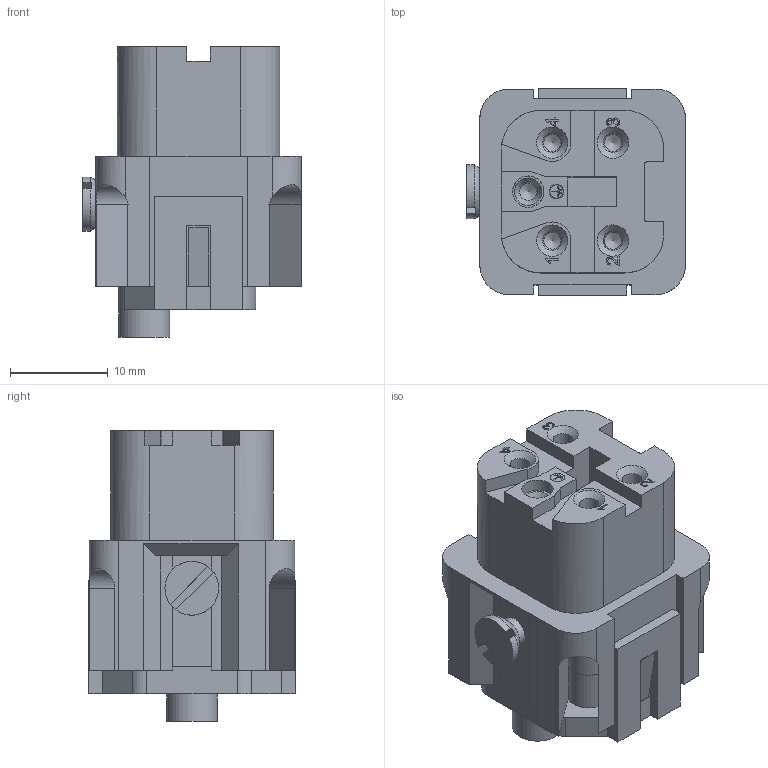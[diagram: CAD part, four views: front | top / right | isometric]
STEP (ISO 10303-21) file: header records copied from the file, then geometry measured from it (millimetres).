
FILE_DESCRIPTION(/* description */ (''),/* implementation_level */ '2;1');
FILE_NAME(/* name */ 'HA-004-F.stp',/* time_stamp */ '2023-09-13T09:40:18+08:00',/* author */ (''),/* organization */ (''),/* preprocessor_version */ 'ST-DEVELOPER v16.7',/* originating_system */ 'SIEMENS PLM Software NX 12.0',/* authorisation */ '');
FILE_SCHEMA (('AUTOMOTIVE_DESIGN { 1 0 10303 214 3 1 1 1 }'));
Length unit declared in the file: millimetre
Products named in the file (1): 09200042711_100094800MOD000C_stp
Bounding box: 22.35 x 21.1 x 29.7 mm (x, y, z)
Volume: 6819.2 mm3; surface area: 4923.6 mm2
Topology: 1 solids, 1 shells, 464 faces, 1316 edges, 890 vertices
Faces by surface type: plane 265, extrusion 98, cylinder 75, cone 20, sphere 5, bspline 1
Full cylindrical faces by diameter (mm): 1.4 x2, 1.494 x2, 1.75 x5, 2 x4, 2.5 x4, 2.7 x5, 3 x1, 3.19 x5, 3.2 x1, 5.2 x1
Entity records: 19454 total; most frequent: CARTESIAN_POINT 5025, ORIENTED_EDGE 2416, DIRECTION 1923, EDGE_CURVE 1208, VECTOR 887, VERTEX_POINT 844, LINE 789, EDGE_LOOP 556
